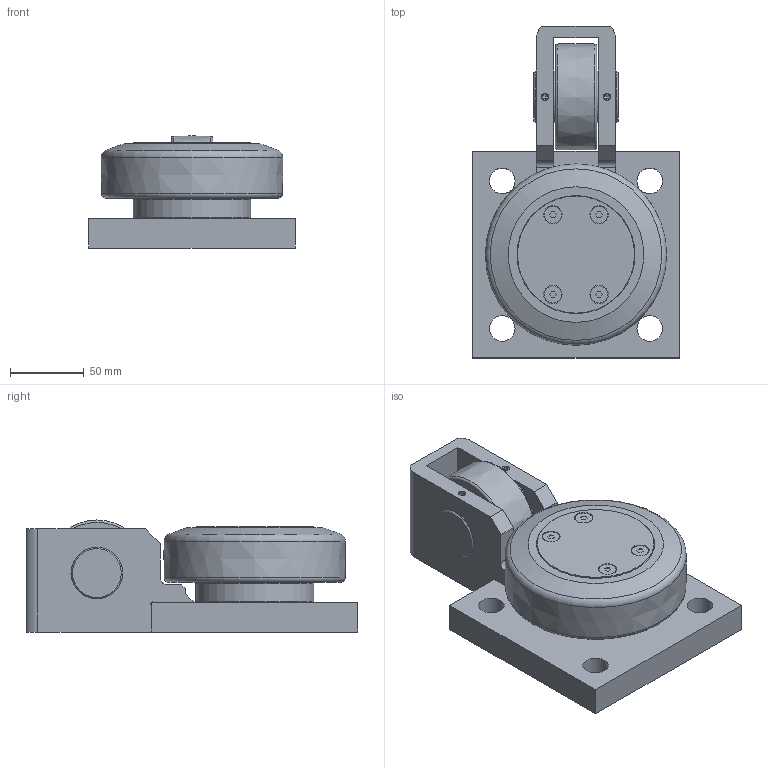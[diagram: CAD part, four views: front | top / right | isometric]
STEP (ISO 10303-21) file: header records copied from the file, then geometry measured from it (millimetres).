
FILE_DESCRIPTION(/* description */ ('-','CAx-IF Rec.Pracs.---Representation and Presentation of Product Manufacturing Information (PMI)---4.0---2014-10-13'),/* implementation_level */ '2;1');
FILE_NAME(/* name */ 'c:\temp\0d457e23-cec1-4bae-98c6-2f466cbaa02f\8a41880c-1462-4d82-a6bd-8b61c0c82b81.stp',/* time_stamp */ '2020-04-01T16:25:03+02:00',/* author */ ('-'),/* organization */ ('NTI CADcenter A/S'),/* preprocessor_version */ 'ST-DEVELOPER v18',/* originating_system */ 'Autodesk Inventor 2020',/* authorisation */ '-');
FILE_SCHEMA (('AP242_MANAGED_MODEL_BASED_3D_ENGINEERING_MIM_LF { 1 0 10303 442 1 1 4 }'));
Length unit declared in the file: millimetre
Products named in the file (1): STR 120.6200_Kontur
Bounding box: 140 x 225 x 76 mm (x, y, z)
Volume: 1154376.8 mm3; surface area: 133555.6 mm2
Topology: 1 solids, 1 shells, 140 faces, 381 edges, 260 vertices
Faces by surface type: plane 83, cylinder 31, cone 18, torus 6, bspline 2
Full cylindrical faces by diameter (mm): 4.917 x2, 6 x2, 11.7 x4, 12.4 x4, 17.294 x4, 35 x4, 35.1 x2, 80 x3
Entity records: 4764 total; most frequent: CARTESIAN_POINT 1100, ORIENTED_EDGE 758, DIRECTION 741, EDGE_CURVE 379, AXIS2_PLACEMENT_3D 263, VERTEX_POINT 260, LINE 215, VECTOR 215
